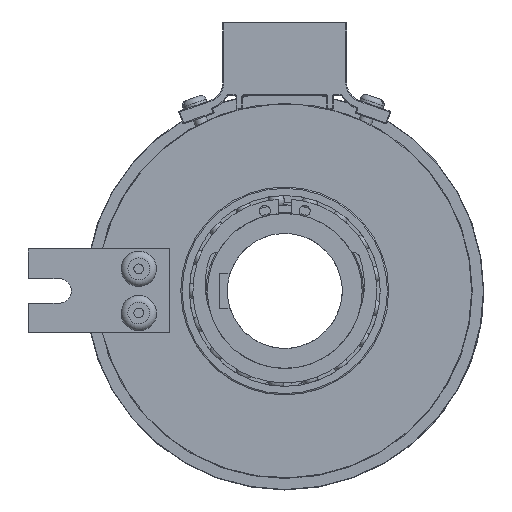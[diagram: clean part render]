
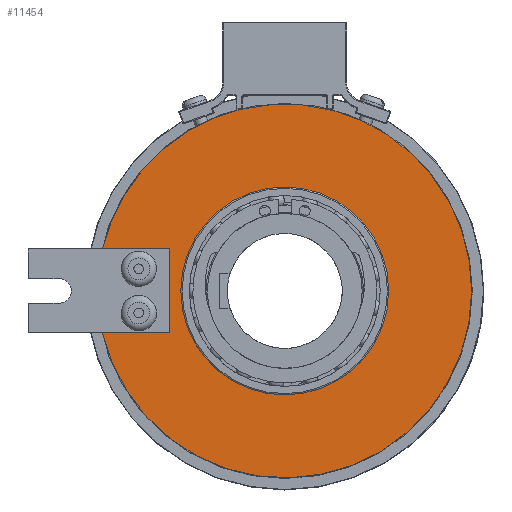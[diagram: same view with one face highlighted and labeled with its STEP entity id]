
A CAD part, left-side view. The second image highlights one B-rep face of the part: STEP entity #11454.
In plain terms, the highlighted planar face has unit normal (-1, 0, 0).
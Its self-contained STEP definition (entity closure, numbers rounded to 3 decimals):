
#302=PLANE('',#12618);
#462=FACE_BOUND('',#1722,.T.);
#1053=FACE_OUTER_BOUND('',#1721,.T.);
#1721=EDGE_LOOP('',(#9004,#9005,#9006,#9007,#9008,#9009));
#1722=EDGE_LOOP('',(#9010,#9011));
#2080=CIRCLE('',#11748,42.25);
#2083=CIRCLE('',#11751,42.25);
#2593=CIRCLE('',#12591,23.5);
#2594=CIRCLE('',#12592,23.5);
#2608=CIRCLE('',#12617,42.25);
#3328=LINE('',#18588,#3898);
#3345=LINE('',#18625,#3915);
#3348=LINE('',#18629,#3918);
#3898=VECTOR('',#14921,10.);
#3915=VECTOR('',#14954,10.);
#3918=VECTOR('',#14959,10.);
#4185=VERTEX_POINT('',#17054);
#4190=VERTEX_POINT('',#17064);
#4191=VERTEX_POINT('',#17066);
#4193=VERTEX_POINT('',#17070);
#4607=VERTEX_POINT('',#18587);
#4619=VERTEX_POINT('',#18623);
#4815=VERTEX_POINT('',#20949);
#4816=VERTEX_POINT('',#20950);
#5337=EDGE_CURVE('',#4191,#4190,#2080,.T.);
#5340=EDGE_CURVE('',#4185,#4193,#2083,.T.);
#6028=EDGE_CURVE('',#4607,#4191,#3328,.T.);
#6047=EDGE_CURVE('',#4193,#4619,#3345,.T.);
#6050=EDGE_CURVE('',#4619,#4607,#3348,.T.);
#6307=EDGE_CURVE('',#4815,#4816,#2593,.T.);
#6309=EDGE_CURVE('',#4816,#4815,#2594,.T.);
#6329=EDGE_CURVE('',#4190,#4185,#2608,.T.);
#9004=ORIENTED_EDGE('',*,*,#6028,.T.);
#9005=ORIENTED_EDGE('',*,*,#5337,.T.);
#9006=ORIENTED_EDGE('',*,*,#6329,.T.);
#9007=ORIENTED_EDGE('',*,*,#5340,.T.);
#9008=ORIENTED_EDGE('',*,*,#6047,.T.);
#9009=ORIENTED_EDGE('',*,*,#6050,.T.);
#9010=ORIENTED_EDGE('',*,*,#6307,.F.);
#9011=ORIENTED_EDGE('',*,*,#6309,.F.);
#11454=ADVANCED_FACE('',(#1053,#462),#302,.T.);
#11748=AXIS2_PLACEMENT_3D('',#17067,#13335,#13336);
#11751=AXIS2_PLACEMENT_3D('',#17072,#13341,#13342);
#12591=AXIS2_PLACEMENT_3D('',#20951,#15327,#15328);
#12592=AXIS2_PLACEMENT_3D('',#20953,#15330,#15331);
#12617=AXIS2_PLACEMENT_3D('',#21029,#15384,#15385);
#12618=AXIS2_PLACEMENT_3D('',#21031,#15387,#15388);
#13335=DIRECTION('center_axis',(-1.,0.,0.));
#13336=DIRECTION('ref_axis',(0.,1.,0.));
#13341=DIRECTION('center_axis',(-1.,0.,0.));
#13342=DIRECTION('ref_axis',(0.,1.,0.));
#14921=DIRECTION('',(0.,1.,0.));
#14954=DIRECTION('',(0.,-1.,0.));
#14959=DIRECTION('',(0.,0.,-1.));
#15327=DIRECTION('center_axis',(-1.,0.,0.));
#15328=DIRECTION('ref_axis',(0.,1.,0.));
#15330=DIRECTION('center_axis',(-1.,0.,0.));
#15331=DIRECTION('ref_axis',(0.,1.,0.));
#15384=DIRECTION('center_axis',(-1.,0.,0.));
#15385=DIRECTION('ref_axis',(0.,1.,0.));
#15387=DIRECTION('center_axis',(-1.,0.,0.));
#15388=DIRECTION('ref_axis',(0.,0.,
1.));
#17054=CARTESIAN_POINT('',(-31.3,9.654,41.132));
#17064=CARTESIAN_POINT('',(-31.3,-42.25,0.));
#17066=CARTESIAN_POINT('',(-31.3,41.168,-9.5));
#17067=CARTESIAN_POINT('Origin',(-31.3,0.,0.));
#17070=CARTESIAN_POINT('',(-31.3,41.168,9.5));
#17072=CARTESIAN_POINT('Origin',(-31.3,0.,0.));
#18587=CARTESIAN_POINT('',(-31.3,26.,-9.5));
#18588=CARTESIAN_POINT('',(-31.3,29.438,-9.5));
#18623=CARTESIAN_POINT('',(-31.3,26.,9.5));
#18625=CARTESIAN_POINT('',(-31.3,45.438,9.5));
#18629=CARTESIAN_POINT('',(-31.3,26.,4.75));
#20949=CARTESIAN_POINT('',(-31.3,23.5,0.));
#20950=CARTESIAN_POINT('',(-31.3,-23.5,0.));
#20951=CARTESIAN_POINT('Origin',(-31.3,0.,0.));
#20953=CARTESIAN_POINT('Origin',(-31.3,0.,0.));
#21029=CARTESIAN_POINT('Origin',(-31.3,0.,0.));
#21031=CARTESIAN_POINT('Origin',(-31.3,32.875,0.));
